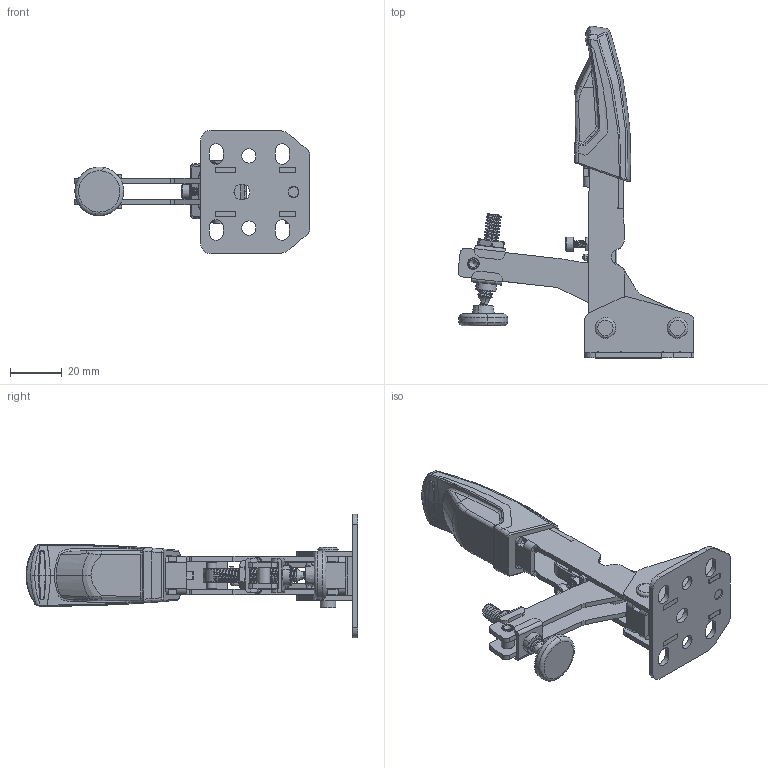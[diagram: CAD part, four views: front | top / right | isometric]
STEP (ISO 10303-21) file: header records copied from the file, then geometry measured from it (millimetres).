
FILE_DESCRIPTION( ('This file contains a STEP AP42 implementation' ,'as created by ZW3D STEP Interface translator.') ,'2;1' );
FILE_NAME( 'STC-VH20 geschlossen.stp' ,'23 2 2. 8 047', (''), ('ZWCAD Software Co.'), 'Version 1.0', 'ZW3D to STEP translator', '' );
FILE_SCHEMA(('AUTOMOTIVE_DESIGN { 1 0 10303 214 1 1 1 1 }'));
Length unit declared in the file: millimetre
Products named in the file (1): 0
Bounding box: 91.57 x 128.86 x 48 mm (x, y, z)
Volume: 35442.1 mm3; surface area: 42179.5 mm2
Topology: 29 solids, 29 shells, 1234 faces, 3125 edges, 1941 vertices
Faces by surface type: plane 398, cylinder 392, bspline 388, torus 22, cone 21, sphere 13
Full cylindrical faces by diameter (mm): 1 x2, 1.2 x2, 2.5 x1, 2.727 x1, 2.9 x12, 4 x6, 4.1 x5, 4.2 x1, 5 x3, 5.1 x2, 5.5 x3, 6 x3, 6.1 x10, 6.2 x1, 6.6 x2, 7.5 x1, 8 x2, 8.6 x1
Entity records: 106879 total; most frequent: CARTESIAN_POINT 79713, ORIENTED_EDGE 6230, DIRECTION 4139, EDGE_CURVE 3115, VERTEX_POINT 1942, VECTOR 1383, LINE 1383, AXIS2_PLACEMENT_3D 1378
